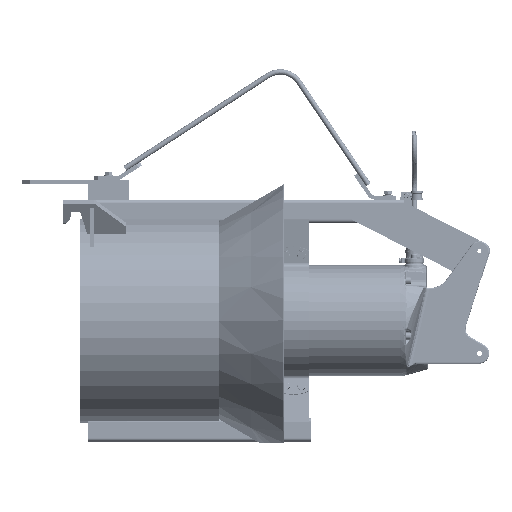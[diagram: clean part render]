
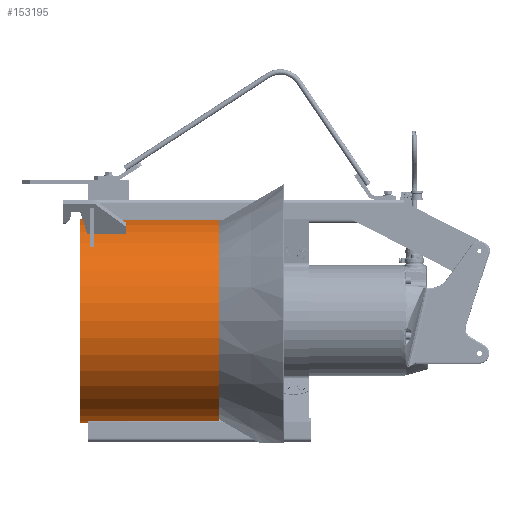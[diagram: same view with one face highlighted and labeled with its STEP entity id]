
A CAD part, top view. The second image highlights one B-rep face of the part: STEP entity #153195.
In plain terms, the highlighted cylindrical face has radius 258 mm (diameter 516 mm), a partial arc.
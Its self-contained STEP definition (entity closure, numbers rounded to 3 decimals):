
#20434 = EDGE_CURVE ( 'NONE', #309121, #633222, #432679, .T. ) ;
#29969 = DIRECTION ( 'NONE',  ( 1., 0., 0. ) ) ;
#57394 = AXIS2_PLACEMENT_3D ( 'NONE', #391757, #623844, #159804 ) ;
#81108 = AXIS2_PLACEMENT_3D ( 'NONE', #352241, #247313, #581963 ) ;
#98240 = EDGE_CURVE ( 'NONE', #217105, #633222, #251777, .T. ) ;
#110420 = ORIENTED_EDGE ( 'NONE', *, *, #98240, .T. ) ;
#153195 = ADVANCED_FACE ( 'NONE', ( #232029 ), #553731, .T. ) ;
#159804 = DIRECTION ( 'NONE',  ( 0., -1., 0. ) ) ;
#195064 = ORIENTED_EDGE ( 'NONE', *, *, #576025, .F. ) ;
#214407 = ORIENTED_EDGE ( 'NONE', *, *, #480416, .T. ) ;
#214974 = ORIENTED_EDGE ( 'NONE', *, *, #20434, .F. ) ;
#217105 = VERTEX_POINT ( 'NONE', #622599 ) ;
#221263 = CARTESIAN_POINT ( 'NONE',  ( -698.566, -274.191, -1.193 ) ) ;
#227062 = VECTOR ( 'NONE', #707431, 1000. ) ;
#232029 = FACE_OUTER_BOUND ( 'NONE', #272355, .T. ) ;
#240216 = VERTEX_POINT ( 'NONE', #366533 ) ;
#247313 = DIRECTION ( 'NONE',  ( -1., 0., 0. ) ) ;
#251777 = CIRCLE ( 'NONE', #684969, 258. ) ;
#272355 = EDGE_LOOP ( 'NONE', ( #214974, #195064, #214407, #110420 ) ) ;
#309121 = VERTEX_POINT ( 'NONE', #338481 ) ;
#311305 = CARTESIAN_POINT ( 'NONE',  ( -348.566, 241.809, -1.193 ) ) ;
#338481 = CARTESIAN_POINT ( 'NONE',  ( -348.566, -274.191, -1.193 ) ) ;
#352241 = CARTESIAN_POINT ( 'NONE',  ( -348.566, -16.191, -1.193 ) ) ;
#366533 = CARTESIAN_POINT ( 'NONE',  ( -348.566, 241.809, -1.193 ) ) ;
#391757 = CARTESIAN_POINT ( 'NONE',  ( -348.566, -16.191, -1.193 ) ) ;
#425178 = CARTESIAN_POINT ( 'NONE',  ( -348.566, -274.191, -1.193 ) ) ;
#426129 = DIRECTION ( 'NONE',  ( -1., 0., 0. ) ) ;
#432679 = LINE ( 'NONE', #425178, #227062 ) ;
#473237 = VECTOR ( 'NONE', #426129, 1000. ) ;
#480416 = EDGE_CURVE ( 'NONE', #240216, #217105, #615808, .T. ) ;
#521880 = CIRCLE ( 'NONE', #57394, 258. ) ;
#553731 = CYLINDRICAL_SURFACE ( 'NONE', #81108, 258. ) ;
#576025 = EDGE_CURVE ( 'NONE', #240216, #309121, #521880, .T. ) ;
#581963 = DIRECTION ( 'NONE',  ( 0., 1., 0. ) ) ;
#615808 = LINE ( 'NONE', #311305, #473237 ) ;
#622599 = CARTESIAN_POINT ( 'NONE',  ( -698.566, 241.809, -1.193 ) ) ;
#623844 = DIRECTION ( 'NONE',  ( 1., 0., 0. ) ) ;
#633222 = VERTEX_POINT ( 'NONE', #221263 ) ;
#684969 = AXIS2_PLACEMENT_3D ( 'NONE', #716304, #29969, #711318 ) ;
#707431 = DIRECTION ( 'NONE',  ( -1., 0., 0. ) ) ;
#711318 = DIRECTION ( 'NONE',  ( 0., -1., 0. ) ) ;
#716304 = CARTESIAN_POINT ( 'NONE',  ( -698.566, -16.191, -1.193 ) ) ;
